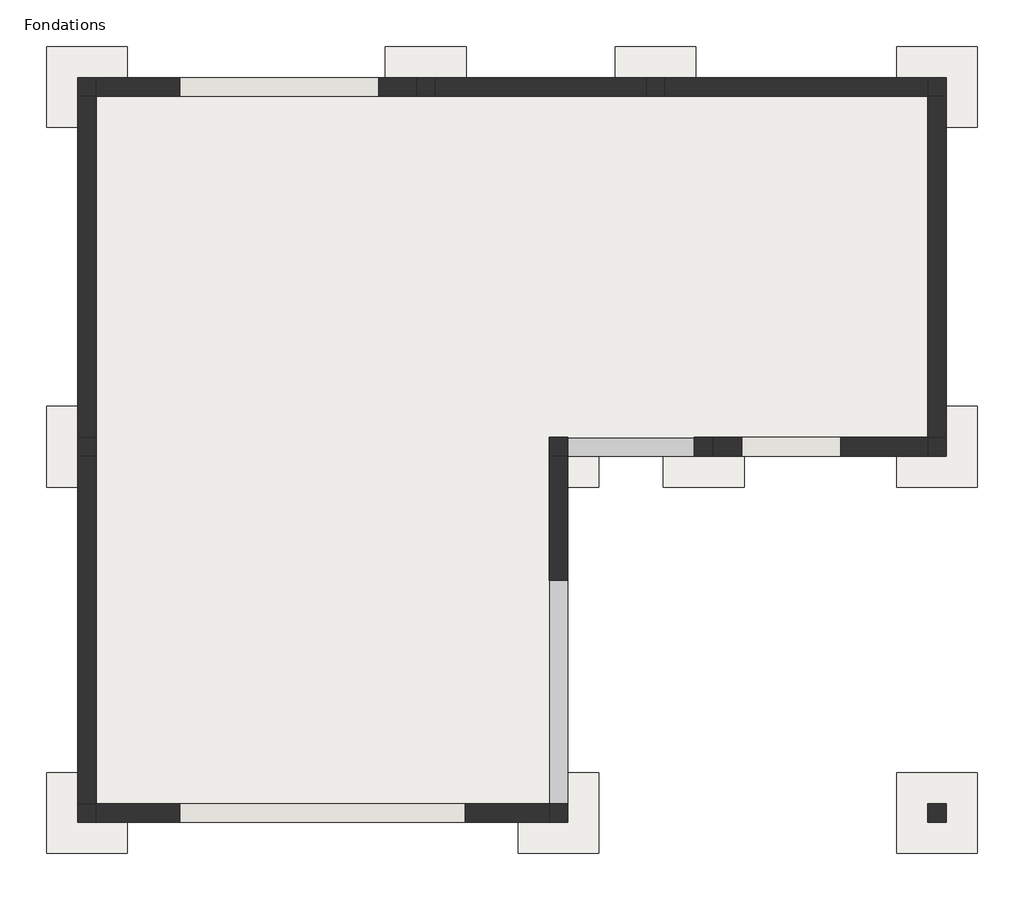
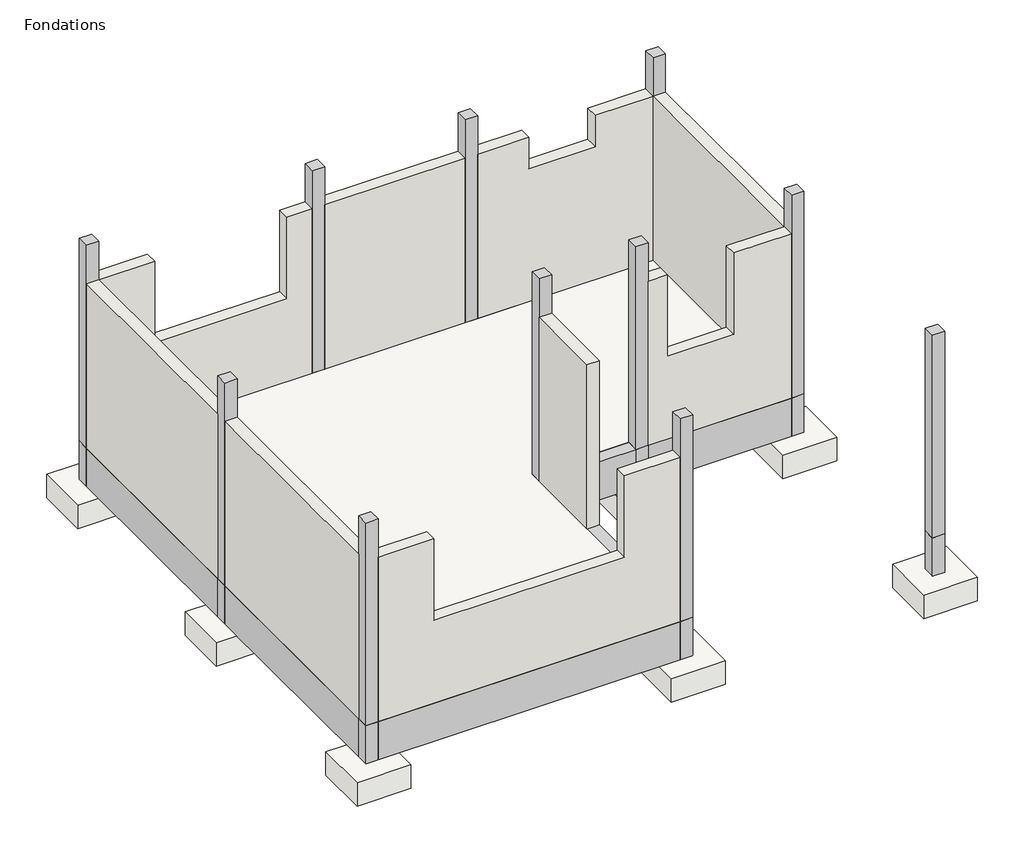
# One storey: 22 columns, 12 slabs, 10 beams, 9 walls.
"""IFC4 building model written with IfcOpenShell, lengths in millimetres."""

from ifc_helpers import new_model, si_unit, frame, origin, origin_with_axes, place, context, project, spatial, polyline, outline, extrude, faceted_brep, transform, mapped, element, save
from components import column_6ce5961b, column_5305e665, base_rectangulaire_f34d6cdc

model = new_model("IFC4")

# Units and contexts
model_context = context("Model", 3, world=origin())
ifc_project = project(units=[si_unit("LENGTHUNIT", "METRE", prefix="MILLI")], contexts=[model_context])

# Site, building, storey
site = spatial("IfcSite", under=ifc_project)
building = spatial("IfcBuilding", under=site)
storey = spatial("IfcBuildingStorey", under=building, Name="Fondations", Elevation=0.0)

# Beams
placement = place(None, origin())
element("IfcBeam", 1, ObjectType="Poutre rectangulaire - Béton : 150 x 490 mm", at=placement, inside=storey, context=model_context, shape_type="Brep", body=[
    faceted_brep([(-888.6356671, 1597.8797898, -490.0), (-888.6356671, 1597.8797898, 0.0), (-3468.6356671, 1597.8797898, 0.0), (-3468.6356671, 1597.8797898, -120.0), (-3468.6356671, 1597.8797898, -490.0), (-888.6356671, 1747.8797898, -490.0), (-3468.6356671, 1747.8797898, -490.0), (-888.6356671, 1747.8797898, 0.0), (-3468.6356671, 1747.8797898, 0.0)], [[[0, 1, 2, 3, 4]], [[5, 0, 4, 6]], [[7, 5, 6, 8]], [[1, 7, 8, 2]], [[1, 0, 5, 7]], [[4, 3, 2, 8, 6]]]),
])
element("IfcBeam", 2, ObjectType="Poutre rectangulaire - Béton : 150 x 490 mm", at=placement, inside=storey, context=model_context, shape_type="SweptSolid", body=[
    extrude(outline(polyline([(961.3643329, 1747.8797898), (961.3643329, 1597.8797898), (-738.6356671, 1597.8797898), (-738.6356671, 1747.8797898), (961.3643329, 1747.8797898)])), frame((0.0, 0.0, -490.0), z_axis=(0.0, 0.0, 1.0), x_axis=(1.0, 0.0, 0.0)), (0.0, 0.0, 1.0), 490.0),
])
element("IfcBeam", 3, ObjectType="Poutre rectangulaire - Béton : 150 x 490 mm", at=placement, inside=storey, context=model_context, shape_type="Brep", body=[
    faceted_brep([(1111.3643329, 1747.8797898, -490.0), (1111.3643329, 1747.8797898, 0.0), (3231.3643329, 1747.8797898, 0.0), (3231.3643329, 1747.8797898, -490.0), (1111.3643329, 1597.8797898, -490.0), (3231.3643329, 1597.8797898, -490.0), (1111.3643329, 1597.8797898, 0.0), (3231.3643329, 1597.8797898, -120.0), (3231.3643329, 1597.8797898, 0.0)], [[[0, 1, 2, 3]], [[4, 0, 3, 5]], [[6, 4, 5, 7, 8]], [[1, 6, 8, 2]], [[1, 0, 4, 6]], [[2, 8, 7, 5, 3]]]),
])
element("IfcBeam", 4, ObjectType="Poutre rectangulaire - Béton : 150 x 490 mm", at=placement, inside=storey, context=model_context, shape_type="Brep", body=[
    faceted_brep([(-3618.6356671, -1152.1202102, -490.0), (-3618.6356671, -1152.1202102, 0.0), (-3618.6356671, 1597.8797898, 0.0), (-3618.6356671, 1597.8797898, -490.0), (-3468.6356671, -1152.1202102, -490.0), (-3468.6356671, 1597.8797898, -490.0), (-3468.6356671, -1152.1202102, 0.0), (-3468.6356671, 1597.8797898, -120.0), (-3468.6356671, 1597.8797898, 0.0)], [[[0, 1, 2, 3]], [[4, 0, 3, 5]], [[6, 4, 5, 7, 8]], [[1, 6, 8, 2]], [[1, 0, 4, 6]], [[3, 2, 8, 7, 5]]]),
])
element("IfcBeam", 5, ObjectType="Poutre rectangulaire - Béton : 150 x 490 mm", at=placement, inside=storey, context=model_context, shape_type="Brep", body=[
    faceted_brep([(-3618.6356671, -4102.1202102, -490.0), (-3618.6356671, -4102.1202102, 0.0), (-3618.6356671, -1302.1202102, 0.0), (-3618.6356671, -1302.1202102, -490.0), (-3468.6356671, -4102.1202102, -490.0), (-3468.6356671, -1302.1202102, -490.0), (-3468.6356671, -4102.1202102, 0.0), (-3468.6356671, -4102.1202102, -120.0), (-3468.6356671, -1302.1202102, 0.0)], [[[0, 1, 2, 3]], [[4, 0, 3, 5]], [[6, 7, 4, 5, 8]], [[1, 6, 8, 2]], [[2, 8, 5, 3]], [[1, 0, 4, 7, 6]]]),
])
element("IfcBeam", 6, ObjectType="Poutre rectangulaire - Béton : 150 x 490 mm", at=placement, inside=storey, context=model_context, shape_type="Brep", body=[
    faceted_brep([(181.3643329, -4252.1202102, -490.0), (181.3643329, -4252.1202102, 0.0), (-3468.6356671, -4252.1202102, 0.0), (-3468.6356671, -4252.1202102, -490.0), (181.3643329, -4102.1202102, -490.0), (-3468.6356671, -4102.1202102, -490.0), (181.3643329, -4102.1202102, 0.0), (181.3643329, -4102.1202102, -120.0), (-3468.6356671, -4102.1202102, -120.0), (-3468.6356671, -4102.1202102, 0.0)], [[[0, 1, 2, 3]], [[4, 0, 3, 5]], [[6, 7, 4, 5, 8, 9]], [[1, 6, 9, 2]], [[2, 9, 8, 5, 3]], [[1, 0, 4, 7, 6]]]),
])
element("IfcBeam", 7, ObjectType="Poutre rectangulaire - Béton : 150 x 490 mm", at=placement, inside=storey, context=model_context, shape_type="Brep", body=[
    faceted_brep([(331.3643329, -1302.1202102, 0.0), (331.3643329, -2302.1202102, 0.0), (331.3643329, -4102.1202102, 0.0), (331.3643329, -4102.1202102, -490.0), (331.3643329, -1302.1202102, -490.0), (181.3643329, -4102.1202102, -490.0), (181.3643329, -1302.1202102, -490.0), (181.3643329, -4102.1202102, -120.0), (181.3643329, -4102.1202102, 0.0), (181.3643329, -2302.1202102, 0.0), (181.3643329, -1302.1202102, 0.0), (181.3643329, -1302.1202102, -120.0)], [[[0, 1, 2, 3, 4]], [[4, 3, 5, 6]], [[6, 5, 7, 8, 9, 10, 11]], [[2, 1, 0, 10, 9, 8]], [[0, 4, 6, 11, 10]], [[2, 8, 7, 5, 3]]]),
])
element("IfcBeam", 8, ObjectType="Poutre rectangulaire - Béton : 150 x 490 mm", at=placement, inside=storey, context=model_context, shape_type="Brep", body=[
    faceted_brep([(1351.3643329, -1302.1202102, 0.0), (331.3643329, -1302.1202102, 0.0), (331.3643329, -1302.1202102, -490.0), (1351.3643329, -1302.1202102, -490.0), (331.3643329, -1152.1202102, -490.0), (1351.3643329, -1152.1202102, -490.0), (331.3643329, -1152.1202102, -120.0), (331.3643329, -1152.1202102, 0.0), (1351.3643329, -1152.1202102, 0.0), (1351.3643329, -1152.1202102, -120.0)], [[[0, 1, 2, 3]], [[3, 2, 4, 5]], [[5, 4, 6, 7, 8, 9]], [[1, 0, 8, 7]], [[0, 3, 5, 9, 8]], [[1, 7, 6, 4, 2]]]),
])
element("IfcBeam", 9, ObjectType="Poutre rectangulaire - Béton : 150 x 490 mm", at=placement, inside=storey, context=model_context, shape_type="Brep", body=[
    faceted_brep([(3231.3643329, -1302.1202102, 0.0), (1501.3643329, -1302.1202102, 0.0), (1501.3643329, -1302.1202102, -490.0), (3231.3643329, -1302.1202102, -490.0), (1501.3643329, -1152.1202102, -490.0), (3231.3643329, -1152.1202102, -490.0), (1501.3643329, -1152.1202102, -120.0), (1501.3643329, -1152.1202102, 0.0), (3231.3643329, -1152.1202102, 0.0), (3231.3643329, -1152.1202102, -120.0)], [[[0, 1, 2, 3]], [[3, 2, 4, 5]], [[5, 4, 6, 7, 8, 9]], [[1, 0, 8, 7]], [[0, 3, 5, 9, 8]], [[1, 7, 6, 4, 2]]]),
])
element("IfcBeam", 10, ObjectType="Poutre rectangulaire - Béton : 150 x 490 mm", at=placement, inside=storey, context=model_context, shape_type="Brep", body=[
    faceted_brep([(3381.3643329, 1597.8797898, -490.0), (3381.3643329, 1597.8797898, 0.0), (3381.3643329, -1152.1202102, 0.0), (3381.3643329, -1152.1202102, -490.0), (3231.3643329, 1597.8797898, -490.0), (3231.3643329, -1152.1202102, -490.0), (3231.3643329, 1597.8797898, 0.0), (3231.3643329, 1597.8797898, -120.0), (3231.3643329, -1152.1202102, -120.0), (3231.3643329, -1152.1202102, 0.0)], [[[0, 1, 2, 3]], [[4, 0, 3, 5]], [[6, 7, 4, 5, 8, 9]], [[1, 6, 9, 2]], [[1, 0, 4, 7, 6]], [[2, 9, 8, 5, 3]]]),
])

# Columns
element("IfcColumn", 11, ObjectType="Poteau béton - Carré : 150 mm x 150 mm", at=placement, inside=storey, context=model_context, shape_type="SweptSolid", body=[
    extrude(outline(polyline([(-3468.6356671, 1747.8797898), (-3468.6356671, 1597.8797898), (-3618.6356671, 1597.8797898), (-3618.6356671, 1747.8797898), (-3468.6356671, 1747.8797898)])), frame((0.0, 0.0, -490.0), z_axis=(0.0, 0.0, 1.0), x_axis=(1.0, 0.0, 0.0)), (0.0, 0.0, 1.0), 490.0),
])
element("IfcColumn", 12, ObjectType="Poteau béton - Carré : 150 mm x 150 mm", at=placement, inside=storey, context=model_context, shape_type="SweptSolid", body=[
    extrude(outline(polyline([(-738.6356671, 1747.8797898), (-738.6356671, 1597.8797898), (-888.6356671, 1597.8797898), (-888.6356671, 1747.8797898), (-738.6356671, 1747.8797898)])), frame((0.0, 0.0, -490.0), z_axis=(0.0, 0.0, 1.0), x_axis=(1.0, 0.0, 0.0)), (0.0, 0.0, 1.0), 490.0),
])
element("IfcColumn", 13, ObjectType="Poteau béton - Carré : 150 mm x 150 mm", at=placement, inside=storey, context=model_context, shape_type="SweptSolid", body=[
    extrude(outline(polyline([(1111.3643329, 1747.8797898), (1111.3643329, 1597.8797898), (961.3643329, 1597.8797898), (961.3643329, 1747.8797898), (1111.3643329, 1747.8797898)])), frame((0.0, 0.0, -490.0), z_axis=(0.0, 0.0, 1.0), x_axis=(1.0, 0.0, 0.0)), (0.0, 0.0, 1.0), 490.0),
])
element("IfcColumn", 14, ObjectType="Poteau béton - Carré : 150 mm x 150 mm", at=placement, inside=storey, context=model_context, shape_type="SweptSolid", body=[
    extrude(outline(polyline([(3381.3643329, 1747.8797898), (3381.3643329, 1597.8797898), (3231.3643329, 1597.8797898), (3231.3643329, 1747.8797898), (3381.3643329, 1747.8797898)])), frame((0.0, 0.0, -490.0), z_axis=(0.0, 0.0, 1.0), x_axis=(1.0, 0.0, 0.0)), (0.0, 0.0, 1.0), 490.0),
])
element("IfcColumn", 15, ObjectType="Poteau béton - Carré : 150 mm x 150 mm", at=placement, inside=storey, context=model_context, shape_type="SweptSolid", body=[
    extrude(outline(polyline([(3381.3643329, -1152.1202102), (3381.3643329, -1302.1202102), (3231.3643329, -1302.1202102), (3231.3643329, -1152.1202102), (3381.3643329, -1152.1202102)])), frame((0.0, 0.0, -490.0), z_axis=(0.0, 0.0, 1.0), x_axis=(1.0, 0.0, 0.0)), (0.0, 0.0, 1.0), 490.0),
])
element("IfcColumn", 16, ObjectType="Poteau béton - Carré : 150 mm x 150 mm", at=placement, inside=storey, context=model_context, shape_type="Brep", body=[
    faceted_brep([(1501.3643329, -1152.1202102, -490.0), (1501.3643329, -1302.1202102, -490.0), (1351.3643329, -1302.1202102, -490.0), (1351.3643329, -1152.1202102, -490.0), (1501.3643329, -1152.1202102, -120.0), (1501.3643329, -1152.1202102, 0.0), (1501.3643329, -1302.1202102, 0.0), (1351.3643329, -1302.1202102, 0.0), (1351.3643329, -1152.1202102, 0.0), (1351.3643329, -1152.1202102, -120.0)], [[[0, 1, 2, 3]], [[1, 0, 4, 5, 6]], [[2, 1, 6, 7]], [[3, 2, 7, 8, 9]], [[0, 3, 9, 8, 5, 4]], [[6, 5, 8, 7]]]),
])
element("IfcColumn", 17, ObjectType="Poteau béton - Carré : 150 mm x 150 mm", at=placement, inside=storey, context=model_context, shape_type="Brep", body=[
    faceted_brep([(331.3643329, -1152.1202102, -490.0), (331.3643329, -1302.1202102, -490.0), (181.3643329, -1302.1202102, -490.0), (181.3643329, -1152.1202102, -490.0), (331.3643329, -1152.1202102, -120.0), (331.3643329, -1152.1202102, 0.0), (331.3643329, -1302.1202102, 0.0), (181.3643329, -1302.1202102, 0.0), (181.3643329, -1302.1202102, -120.0), (181.3643329, -1152.1202102, 0.0), (181.3643329, -1152.1202102, -120.0)], [[[0, 1, 2, 3]], [[1, 0, 4, 5, 6]], [[2, 1, 6, 7, 8]], [[3, 2, 8, 7, 9, 10]], [[0, 3, 10, 9, 5, 4]], [[6, 5, 9, 7]]]),
])
element("IfcColumn", 18, ObjectType="Poteau béton - Carré : 150 mm x 150 mm", at=placement, inside=storey, context=model_context, shape_type="SweptSolid", body=[
    extrude(outline(polyline([(-3468.6356671, -1152.1202102), (-3468.6356671, -1302.1202102), (-3618.6356671, -1302.1202102), (-3618.6356671, -1152.1202102), (-3468.6356671, -1152.1202102)])), frame((0.0, 0.0, -490.0), z_axis=(0.0, 0.0, 1.0), x_axis=(1.0, 0.0, 0.0)), (0.0, 0.0, 1.0), 490.0),
])
element("IfcColumn", 19, ObjectType="Poteau béton - Carré : 150 mm x 150 mm", at=placement, inside=storey, context=model_context, shape_type="SweptSolid", body=[
    extrude(outline(polyline([(-3468.6356671, -4102.1202102), (-3468.6356671, -4252.1202102), (-3618.6356671, -4252.1202102), (-3618.6356671, -4102.1202102), (-3468.6356671, -4102.1202102)])), frame((0.0, 0.0, -490.0), z_axis=(0.0, 0.0, 1.0), x_axis=(1.0, 0.0, 0.0)), (0.0, 0.0, 1.0), 490.0),
])
element("IfcColumn", 20, ObjectType="Poteau béton - Carré : 150 mm x 150 mm", at=placement, inside=storey, context=model_context, shape_type="SweptSolid", body=[
    extrude(outline(polyline([(331.3643329, -4102.1202102), (331.3643329, -4252.1202102), (181.3643329, -4252.1202102), (181.3643329, -4102.1202102), (331.3643329, -4102.1202102)])), frame((0.0, 0.0, -490.0), z_axis=(0.0, 0.0, 1.0), x_axis=(1.0, 0.0, 0.0)), (0.0, 0.0, 1.0), 490.0),
])
element("IfcColumn", 21, ObjectType="Poteau béton - Carré : 150 mm x 150 mm", at=placement, inside=storey, context=model_context, shape_type="Brep", body=[
    faceted_brep([(-3468.6356671, 1747.8797898, 0.0), (-3468.6356671, 1597.8797898, 0.0), (-3618.6356671, 1597.8797898, 0.0), (-3618.6356671, 1747.8797898, 0.0), (-3468.6356671, 1747.8797898, 2440.0), (-3468.6356671, 1747.8797898, 2590.0), (-3468.6356671, 1597.8797898, 2590.0), (-3468.6356671, 1597.8797898, 2440.0), (-3618.6356671, 1597.8797898, 2590.0), (-3618.6356671, 1747.8797898, 2590.0), (-3618.6356671, 1747.8797898, 2440.0)], [[[0, 1, 2, 3]], [[1, 0, 4, 5, 6, 7]], [[2, 1, 7, 6, 8]], [[3, 2, 8, 9, 10]], [[0, 3, 10, 9, 5, 4]], [[6, 5, 9, 8]]]),
])
element("IfcColumn", 22, ObjectType="Poteau béton - Carré : 150 mm x 150 mm", at=placement, inside=storey, context=model_context, shape_type="SweptSolid", body=[
    extrude(outline(polyline([(-738.6356671, 1747.8797898), (-738.6356671, 1597.8797898), (-888.6356671, 1597.8797898), (-888.6356671, 1747.8797898), (-738.6356671, 1747.8797898)])), origin_with_axes(), (0.0, 0.0, 1.0), 2590.0),
])
element("IfcColumn", 23, ObjectType="Poteau béton - Carré : 150 mm x 150 mm", at=placement, inside=storey, context=model_context, shape_type="SweptSolid", body=[
    extrude(outline(polyline([(1111.3643329, 1747.8797898), (1111.3643329, 1597.8797898), (961.3643329, 1597.8797898), (961.3643329, 1747.8797898), (1111.3643329, 1747.8797898)])), origin_with_axes(), (0.0, 0.0, 1.0), 2590.0),
])
element("IfcColumn", 24, ObjectType="Poteau béton - Carré : 150 mm x 150 mm", at=placement, inside=storey, context=model_context, shape_type="Brep", body=[
    faceted_brep([(3381.3643329, 1747.8797898, 0.0), (3381.3643329, 1597.8797898, 0.0), (3231.3643329, 1597.8797898, 0.0), (3231.3643329, 1747.8797898, 0.0), (3381.3643329, 1747.8797898, 2440.0), (3381.3643329, 1747.8797898, 2590.0), (3381.3643329, 1597.8797898, 2590.0), (3231.3643329, 1597.8797898, 2590.0), (3231.3643329, 1597.8797898, 2440.0), (3231.3643329, 1747.8797898, 2590.0), (3231.3643329, 1747.8797898, 2440.0)], [[[0, 1, 2, 3]], [[1, 0, 4, 5, 6]], [[2, 1, 6, 7, 8]], [[3, 2, 8, 7, 9, 10]], [[0, 3, 10, 9, 5, 4]], [[6, 5, 9, 7]]]),
])
element("IfcColumn", 25, ObjectType="Poteau béton - Carré : 150 mm x 150 mm", at=placement, inside=storey, context=model_context, shape_type="SweptSolid", body=[
    extrude(outline(polyline([(3381.3643329, -1152.1202102), (3381.3643329, -1302.1202102), (3231.3643329, -1302.1202102), (3231.3643329, -1152.1202102), (3381.3643329, -1152.1202102)])), origin_with_axes(), (0.0, 0.0, 1.0), 2590.0),
])
element("IfcColumn", 26, ObjectType="Poteau béton - Carré : 150 mm x 150 mm", at=placement, inside=storey, context=model_context, shape_type="Brep", body=[
    faceted_brep([(1501.3643329, -1152.1202102, 0.0), (1501.3643329, -1302.1202102, 0.0), (1351.3643329, -1302.1202102, 0.0), (1351.3643329, -1152.1202102, 0.0), (1501.3643329, -1152.1202102, 2440.0), (1501.3643329, -1152.1202102, 2590.0), (1501.3643329, -1302.1202102, 2590.0), (1351.3643329, -1302.1202102, 2590.0), (1351.3643329, -1152.1202102, 2590.0), (1351.3643329, -1152.1202102, 2440.0)], [[[0, 1, 2, 3]], [[1, 0, 4, 5, 6]], [[2, 1, 6, 7]], [[3, 2, 7, 8, 9]], [[0, 3, 9, 8, 5, 4]], [[6, 5, 8, 7]]]),
])
element("IfcColumn", 27, ObjectType="Poteau béton - Carré : 150 mm x 150 mm", at=placement, inside=storey, context=model_context, shape_type="Brep", body=[
    faceted_brep([(331.3643329, -1152.1202102, 0.0), (331.3643329, -1302.1202102, 0.0), (181.3643329, -1302.1202102, 0.0), (181.3643329, -1152.1202102, 0.0), (331.3643329, -1152.1202102, 2440.0), (331.3643329, -1152.1202102, 2590.0), (331.3643329, -1302.1202102, 2590.0), (331.3643329, -1302.1202102, 2100.0), (181.3643329, -1302.1202102, 2590.0), (181.3643329, -1302.1202102, 2440.0), (181.3643329, -1302.1202102, 2100.0), (181.3643329, -1152.1202102, 2590.0), (181.3643329, -1152.1202102, 2440.0)], [[[0, 1, 2, 3]], [[1, 0, 4, 5, 6, 7]], [[2, 1, 7, 6, 8, 9, 10]], [[3, 2, 10, 9, 8, 11, 12]], [[0, 3, 12, 11, 5, 4]], [[6, 5, 11, 8]]]),
])
element("IfcColumn", 28, ObjectType="Poteau béton - Carré : 150 mm x 150 mm", at=placement, inside=storey, context=model_context, shape_type="Brep", body=[
    faceted_brep([(331.3643329, -4102.1202102, 0.0), (331.3643329, -4252.1202102, 0.0), (181.3643329, -4252.1202102, 0.0), (181.3643329, -4102.1202102, 0.0), (331.3643329, -4102.1202102, 2590.0), (331.3643329, -4252.1202102, 2590.0), (331.3643329, -4252.1202102, 2440.0), (181.3643329, -4252.1202102, 2590.0), (181.3643329, -4252.1202102, 2440.0), (181.3643329, -4102.1202102, 2590.0), (181.3643329, -4102.1202102, 2440.0)], [[[0, 1, 2, 3]], [[1, 0, 4, 5, 6]], [[2, 1, 6, 5, 7, 8]], [[3, 2, 8, 7, 9, 10]], [[0, 3, 10, 9, 4]], [[5, 4, 9, 7]]]),
])
element("IfcColumn", 29, ObjectType="Poteau béton - Carré : 150 mm x 150 mm", at=placement, inside=storey, context=model_context, shape_type="Brep", body=[
    faceted_brep([(-3468.6356671, -4102.1202102, 0.0), (-3468.6356671, -4252.1202102, 0.0), (-3618.6356671, -4252.1202102, 0.0), (-3618.6356671, -4102.1202102, 0.0), (-3468.6356671, -4102.1202102, 2440.0), (-3468.6356671, -4102.1202102, 2590.0), (-3468.6356671, -4252.1202102, 2590.0), (-3468.6356671, -4252.1202102, 2440.0), (-3618.6356671, -4252.1202102, 2590.0), (-3618.6356671, -4252.1202102, 2440.0), (-3618.6356671, -4102.1202102, 2590.0)], [[[0, 1, 2, 3]], [[1, 0, 4, 5, 6, 7]], [[2, 1, 7, 6, 8, 9]], [[3, 2, 9, 8, 10]], [[0, 3, 10, 5, 4]], [[6, 5, 10, 8]]]),
])
element("IfcColumn", 30, ObjectType="Poteau béton - Carré : 150 mm x 150 mm", at=placement, inside=storey, context=model_context, shape_type="SweptSolid", body=[
    extrude(outline(polyline([(-3468.6356671, -1152.1202102), (-3468.6356671, -1302.1202102), (-3618.6356671, -1302.1202102), (-3618.6356671, -1152.1202102), (-3468.6356671, -1152.1202102)])), origin_with_axes(), (0.0, 0.0, 1.0), 2590.0),
])
column_shape = column_6ce5961b(model_context)
element("IfcColumn", 31, ObjectType="Poteau béton - Carré : 150 mm x 150 mm", at=placement, inside=storey, context=model_context, shape_type="MappedRepresentation", body=[
    mapped(column_shape, transform((3306.3643329, -4177.1202102, 0.0), x_axis=(1.0, 0.0, 0.0), y_axis=(0.0, 1.0, 0.0), z_axis=(0.0, 0.0, 1.0))),
])
column_2_shape = column_5305e665(model_context)
element("IfcColumn", 32, ObjectType="Poteau béton - Carré : 150 mm x 150 mm", at=placement, inside=storey, context=model_context, shape_type="MappedRepresentation", body=[
    mapped(column_2_shape, transform((3306.3643329, -4177.1202102, 0.0), x_axis=(1.0, 0.0, 0.0), y_axis=(0.0, 1.0, 0.0), z_axis=(0.0, 0.0, 1.0))),
])

# Slabs
element("IfcSlab", 33, ObjectType="Dallage", at=placement, inside=storey, context=model_context, shape_type="Brep", body=[
    faceted_brep([(3231.3643329, 1597.8797898, -120.0), (3231.3643329, -1152.1202102, -120.0), (181.3643329, -1152.1202102, -120.0), (181.3643329, -4102.1202102, -120.0), (-3468.6356671, -4102.1202102, -120.0), (-3468.6356671, 1597.8797898, -120.0), (3231.3643329, 1597.8797898, 0.0), (1111.3643329, 1597.8797898, 0.0), (961.3643329, 1597.8797898, 0.0), (-738.6356671, 1597.8797898, 0.0), (-888.6356671, 1597.8797898, 0.0), (-3468.6356671, 1597.8797898, 0.0), (-3468.6356671, -1152.1202102, 0.0), (-3468.6356671, -1302.1202102, 0.0), (-3468.6356671, -4102.1202102, 0.0), (181.3643329, -4102.1202102, 0.0), (181.3643329, -1302.1202102, 0.0), (181.3643329, -1152.1202102, 0.0), (331.3643329, -1152.1202102, 0.0), (1351.3643329, -1152.1202102, 0.0), (1501.3643329, -1152.1202102, 0.0), (3231.3643329, -1152.1202102, 0.0)], [[[0, 1, 2, 3, 4, 5]], [[6, 7, 8, 9, 10, 11, 12, 13, 14, 15, 16, 17, 18, 19, 20, 21]], [[1, 0, 6, 21]], [[2, 1, 21, 20, 19, 18, 17]], [[3, 2, 17, 16, 15]], [[4, 3, 15, 14]], [[5, 4, 14, 13, 12, 11]], [[0, 5, 11, 10, 9, 8, 7, 6]]]),
])
element("IfcSlab", 34, ObjectType="Base rectangulaire : S1 650mm x 650mm x 300mm ht", at=placement, inside=storey, context=model_context, shape_type="SweptSolid", body=[
    extrude(outline(polyline([(-3218.6356671, 1997.8797898), (-3218.6356671, 1347.8797898), (-3868.6356671, 1347.8797898), (-3868.6356671, 1997.8797898), (-3218.6356671, 1997.8797898)])), frame((0.0, 0.0, -790.0), z_axis=(0.0, 0.0, 1.0), x_axis=(1.0, 0.0, 0.0)), (0.0, 0.0, 1.0), 300.0),
    extrude(outline(polyline([(-3218.6356671, 1997.8797898), (-3218.6356671, 1347.8797898), (-3868.6356671, 1347.8797898), (-3868.6356671, 1997.8797898), (-3218.6356671, 1997.8797898)])), frame((0.0, 0.0, -790.0), z_axis=(0.0, 0.0, 1.0), x_axis=(1.0, 0.0, 0.0)), (0.0, 0.0, 1.0), 300.0),
])
element("IfcSlab", 35, ObjectType="Base rectangulaire : S1 650mm x 650mm x 300mm ht", at=placement, inside=storey, context=model_context, shape_type="SweptSolid", body=[
    extrude(outline(polyline([(-488.6356671, 1997.8797898), (-488.6356671, 1347.8797898), (-1138.6356671, 1347.8797898), (-1138.6356671, 1997.8797898), (-488.6356671, 1997.8797898)])), frame((0.0, 0.0, -790.0), z_axis=(0.0, 0.0, 1.0), x_axis=(1.0, 0.0, 0.0)), (0.0, 0.0, 1.0), 300.0),
    extrude(outline(polyline([(-488.6356671, 1997.8797898), (-488.6356671, 1347.8797898), (-1138.6356671, 1347.8797898), (-1138.6356671, 1997.8797898), (-488.6356671, 1997.8797898)])), frame((0.0, 0.0, -790.0), z_axis=(0.0, 0.0, 1.0), x_axis=(1.0, 0.0, 0.0)), (0.0, 0.0, 1.0), 300.0),
])
element("IfcSlab", 36, ObjectType="Base rectangulaire : S1 650mm x 650mm x 300mm ht", at=placement, inside=storey, context=model_context, shape_type="SweptSolid", body=[
    extrude(outline(polyline([(1361.3643329, 1997.8797898), (1361.3643329, 1347.8797898), (711.3643329, 1347.8797898), (711.3643329, 1997.8797898), (1361.3643329, 1997.8797898)])), frame((0.0, 0.0, -790.0), z_axis=(0.0, 0.0, 1.0), x_axis=(1.0, 0.0, 0.0)), (0.0, 0.0, 1.0), 300.0),
    extrude(outline(polyline([(1361.3643329, 1997.8797898), (1361.3643329, 1347.8797898), (711.3643329, 1347.8797898), (711.3643329, 1997.8797898), (1361.3643329, 1997.8797898)])), frame((0.0, 0.0, -790.0), z_axis=(0.0, 0.0, 1.0), x_axis=(1.0, 0.0, 0.0)), (0.0, 0.0, 1.0), 300.0),
])
element("IfcSlab", 37, ObjectType="Base rectangulaire : S1 650mm x 650mm x 300mm ht", at=placement, inside=storey, context=model_context, shape_type="SweptSolid", body=[
    extrude(outline(polyline([(3631.3643329, 1997.8797898), (3631.3643329, 1347.8797898), (2981.3643329, 1347.8797898), (2981.3643329, 1997.8797898), (3631.3643329, 1997.8797898)])), frame((0.0, 0.0, -790.0), z_axis=(0.0, 0.0, 1.0), x_axis=(1.0, 0.0, 0.0)), (0.0, 0.0, 1.0), 300.0),
    extrude(outline(polyline([(3631.3643329, 1997.8797898), (3631.3643329, 1347.8797898), (2981.3643329, 1347.8797898), (2981.3643329, 1997.8797898), (3631.3643329, 1997.8797898)])), frame((0.0, 0.0, -790.0), z_axis=(0.0, 0.0, 1.0), x_axis=(1.0, 0.0, 0.0)), (0.0, 0.0, 1.0), 300.0),
])
element("IfcSlab", 38, ObjectType="Base rectangulaire : S1 650mm x 650mm x 300mm ht", at=placement, inside=storey, context=model_context, shape_type="SweptSolid", body=[
    extrude(outline(polyline([(3631.3643329, -902.1202102), (3631.3643329, -1552.1202102), (2981.3643329, -1552.1202102), (2981.3643329, -902.1202102), (3631.3643329, -902.1202102)])), frame((0.0, 0.0, -790.0), z_axis=(0.0, 0.0, 1.0), x_axis=(1.0, 0.0, 0.0)), (0.0, 0.0, 1.0), 300.0),
    extrude(outline(polyline([(3631.3643329, -902.1202102), (3631.3643329, -1552.1202102), (2981.3643329, -1552.1202102), (2981.3643329, -902.1202102), (3631.3643329, -902.1202102)])), frame((0.0, 0.0, -790.0), z_axis=(0.0, 0.0, 1.0), x_axis=(1.0, 0.0, 0.0)), (0.0, 0.0, 1.0), 300.0),
])
element("IfcSlab", 39, ObjectType="Base rectangulaire : S1 650mm x 650mm x 300mm ht", at=placement, inside=storey, context=model_context, shape_type="SweptSolid", body=[
    extrude(outline(polyline([(1751.3643329, -902.1202102), (1751.3643329, -1552.1202102), (1101.3643329, -1552.1202102), (1101.3643329, -902.1202102), (1751.3643329, -902.1202102)])), frame((0.0, 0.0, -790.0), z_axis=(0.0, 0.0, 1.0), x_axis=(1.0, 0.0, 0.0)), (0.0, 0.0, 1.0), 300.0),
    extrude(outline(polyline([(1751.3643329, -902.1202102), (1751.3643329, -1552.1202102), (1101.3643329, -1552.1202102), (1101.3643329, -902.1202102), (1751.3643329, -902.1202102)])), frame((0.0, 0.0, -790.0), z_axis=(0.0, 0.0, 1.0), x_axis=(1.0, 0.0, 0.0)), (0.0, 0.0, 1.0), 300.0),
])
element("IfcSlab", 40, ObjectType="Base rectangulaire : S1 650mm x 650mm x 300mm ht", at=placement, inside=storey, context=model_context, shape_type="SweptSolid", body=[
    extrude(outline(polyline([(581.3643329, -902.1202102), (581.3643329, -1552.1202102), (-68.6356671, -1552.1202102), (-68.6356671, -902.1202102), (581.3643329, -902.1202102)])), frame((0.0, 0.0, -790.0), z_axis=(0.0, 0.0, 1.0), x_axis=(1.0, 0.0, 0.0)), (0.0, 0.0, 1.0), 300.0),
    extrude(outline(polyline([(581.3643329, -902.1202102), (581.3643329, -1552.1202102), (-68.6356671, -1552.1202102), (-68.6356671, -902.1202102), (581.3643329, -902.1202102)])), frame((0.0, 0.0, -790.0), z_axis=(0.0, 0.0, 1.0), x_axis=(1.0, 0.0, 0.0)), (0.0, 0.0, 1.0), 300.0),
])
element("IfcSlab", 41, ObjectType="Base rectangulaire : S1 650mm x 650mm x 300mm ht", at=placement, inside=storey, context=model_context, shape_type="SweptSolid", body=[
    extrude(outline(polyline([(581.3643329, -3852.1202102), (581.3643329, -4502.1202102), (-68.6356671, -4502.1202102), (-68.6356671, -3852.1202102), (581.3643329, -3852.1202102)])), frame((0.0, 0.0, -790.0), z_axis=(0.0, 0.0, 1.0), x_axis=(1.0, 0.0, 0.0)), (0.0, 0.0, 1.0), 300.0),
    extrude(outline(polyline([(581.3643329, -3852.1202102), (581.3643329, -4502.1202102), (-68.6356671, -4502.1202102), (-68.6356671, -3852.1202102), (581.3643329, -3852.1202102)])), frame((0.0, 0.0, -790.0), z_axis=(0.0, 0.0, 1.0), x_axis=(1.0, 0.0, 0.0)), (0.0, 0.0, 1.0), 300.0),
])
element("IfcSlab", 42, ObjectType="Base rectangulaire : S1 650mm x 650mm x 300mm ht", at=placement, inside=storey, context=model_context, shape_type="SweptSolid", body=[
    extrude(outline(polyline([(-3218.6356671, -3852.1202102), (-3218.6356671, -4502.1202102), (-3868.6356671, -4502.1202102), (-3868.6356671, -3852.1202102), (-3218.6356671, -3852.1202102)])), frame((0.0, 0.0, -790.0), z_axis=(0.0, 0.0, 1.0), x_axis=(1.0, 0.0, 0.0)), (0.0, 0.0, 1.0), 300.0),
    extrude(outline(polyline([(-3218.6356671, -3852.1202102), (-3218.6356671, -4502.1202102), (-3868.6356671, -4502.1202102), (-3868.6356671, -3852.1202102), (-3218.6356671, -3852.1202102)])), frame((0.0, 0.0, -790.0), z_axis=(0.0, 0.0, 1.0), x_axis=(1.0, 0.0, 0.0)), (0.0, 0.0, 1.0), 300.0),
])
element("IfcSlab", 43, ObjectType="Base rectangulaire : S1 650mm x 650mm x 300mm ht", at=placement, inside=storey, context=model_context, shape_type="SweptSolid", body=[
    extrude(outline(polyline([(-3218.6356671, -902.1202102), (-3218.6356671, -1552.1202102), (-3868.6356671, -1552.1202102), (-3868.6356671, -902.1202102), (-3218.6356671, -902.1202102)])), frame((0.0, 0.0, -790.0), z_axis=(0.0, 0.0, 1.0), x_axis=(1.0, 0.0, 0.0)), (0.0, 0.0, 1.0), 300.0),
    extrude(outline(polyline([(-3218.6356671, -902.1202102), (-3218.6356671, -1552.1202102), (-3868.6356671, -1552.1202102), (-3868.6356671, -902.1202102), (-3218.6356671, -902.1202102)])), frame((0.0, 0.0, -790.0), z_axis=(0.0, 0.0, 1.0), x_axis=(1.0, 0.0, 0.0)), (0.0, 0.0, 1.0), 300.0),
])
base_rectangulaire_shape = base_rectangulaire_f34d6cdc(model_context)
element("IfcSlab", 44, ObjectType="Base rectangulaire : S1 650mm x 650mm x 300mm ht", at=placement, inside=storey, context=model_context, shape_type="MappedRepresentation", body=[
    mapped(base_rectangulaire_shape, transform((3306.3643329, -4177.1202102, -490.0), x_axis=(1.0, 0.0, 0.0), y_axis=(0.0, 1.0, 0.0), z_axis=(0.0, 0.0, 1.0))),
])

# Walls
element("IfcWall", 45, ObjectType="Agglos 015", at=placement, inside=storey, context=model_context, shape_type="SweptSolid", body=[
    extrude(outline(polyline([(-3468.6356671, -1302.1202102), (-3468.6356671, -4102.1202102), (-3618.6356671, -4102.1202102), (-3618.6356671, -1302.1202102), (-3468.6356671, -1302.1202102)])), origin_with_axes(), (0.0, 0.0, 1.0), 2100.0),
])
element("IfcWall", 46, ObjectType="Agglos 015", at=placement, inside=storey, context=model_context, shape_type="SweptSolid", body=[
    extrude(outline(polyline([(-3468.6356671, 1597.8797898), (-3468.6356671, -1152.1202102), (-3618.6356671, -1152.1202102), (-3618.6356671, 1597.8797898), (-3468.6356671, 1597.8797898)])), origin_with_axes(), (0.0, 0.0, 1.0), 2100.0),
])
element("IfcWall", 47, ObjectType="Agglos 015", at=placement, inside=storey, context=model_context, shape_type="SweptSolid", body=[
    extrude(outline(polyline([(0.0, -3468.6356671), (0.0, -888.6356671), (2100.0, -888.6356671), (2100.0, -1193.6356671), (1060.0, -1193.6356671), (1060.0, -2793.6356671), (2100.0, -2793.6356671), (2100.0, -3468.6356671), (0.0, -3468.6356671)])), frame((0.0, 1597.8797898, 0.0), z_axis=(0.0, 1.0, 0.0), x_axis=(0.0, 0.0, 1.0)), (0.0, 0.0, 1.0), 150.0),
])
element("IfcWall", 48, ObjectType="Agglos 015", at=placement, inside=storey, context=model_context, shape_type="SweptSolid", body=[
    extrude(outline(polyline([(961.3643329, 1597.8797898), (-738.6356671, 1597.8797898), (-738.6356671, 1747.8797898), (961.3643329, 1747.8797898), (961.3643329, 1597.8797898)])), origin_with_axes(), (0.0, 0.0, 1.0), 2100.0),
])
element("IfcWall", 49, ObjectType="Agglos 015", at=placement, inside=storey, context=model_context, shape_type="SweptSolid", body=[
    extrude(outline(polyline([(0.0, 1111.3643329), (0.0, 3231.3643329), (2100.0, 3231.3643329), (2100.0, 2531.3643329), (1700.0, 2531.3643329), (1700.0, 1731.3643329), (2100.0, 1731.3643329), (2100.0, 1111.3643329), (0.0, 1111.3643329)])), frame((0.0, 1597.8797898, 0.0), z_axis=(0.0, 1.0, 0.0), x_axis=(0.0, 0.0, 1.0)), (0.0, 0.0, 1.0), 150.0),
])
element("IfcWall", 50, ObjectType="Agglos 015", at=placement, inside=storey, context=model_context, shape_type="SweptSolid", body=[
    extrude(outline(polyline([(3231.3643329, -1152.1202102), (3231.3643329, 1597.8797898), (3381.3643329, 1597.8797898), (3381.3643329, -1152.1202102), (3231.3643329, -1152.1202102)])), origin_with_axes(), (0.0, 0.0, 1.0), 2100.0),
])
element("IfcWall", 51, ObjectType="Agglos 015", at=placement, inside=storey, context=model_context, shape_type="SweptSolid", body=[
    extrude(outline(polyline([(0.0, 1501.3643329), (0.0, 3231.3643329), (2100.0, 3231.3643329), (2100.0, 2531.3643329), (1060.0, 2531.3643329), (1060.0, 1731.3643329), (2100.0, 1731.3643329), (2100.0, 1501.3643329), (0.0, 1501.3643329)])), frame((0.0, -1302.1202102, 0.0), z_axis=(0.0, 1.0, 0.0), x_axis=(0.0, 0.0, 1.0)), (0.0, 0.0, 1.0), 150.0),
])
element("IfcWall", 52, ObjectType="Agglos 015", at=placement, inside=storey, context=model_context, shape_type="SweptSolid", body=[
    extrude(outline(polyline([(181.3643329, -1302.1202102), (331.3643329, -1302.1202102), (331.3643329, -2302.1202102), (181.3643329, -2302.1202102), (181.3643329, -1302.1202102)])), origin_with_axes(), (0.0, 0.0, 1.0), 2100.0),
])
element("IfcWall", 53, ObjectType="Agglos 015", at=placement, inside=storey, context=model_context, shape_type="SweptSolid", body=[
    extrude(outline(polyline([(0.0, -3468.6356671), (0.0, 181.3643329), (2100.0, 181.3643329), (2100.0, -493.6356671), (1060.0, -493.6356671), (1060.0, -2793.6356671), (2100.0, -2793.6356671), (2100.0, -3468.6356671), (0.0, -3468.6356671)])), frame((0.0, -4252.1202102, 0.0), z_axis=(0.0, 1.0, 0.0), x_axis=(0.0, 0.0, 1.0)), (0.0, 0.0, 1.0), 150.0),
])

save(model, "model.ifc")
